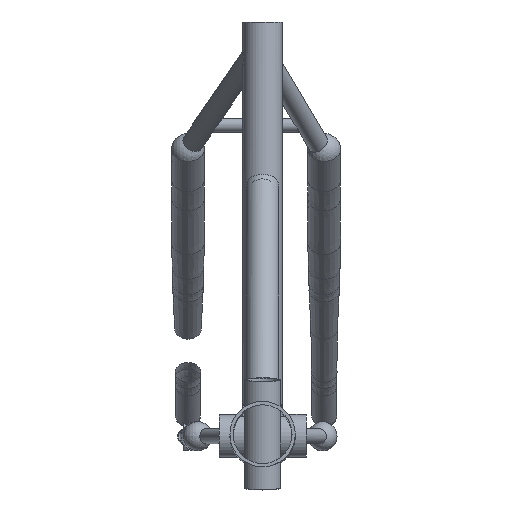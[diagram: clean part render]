
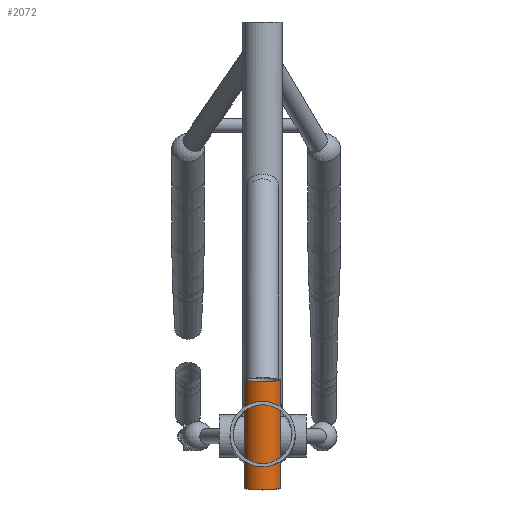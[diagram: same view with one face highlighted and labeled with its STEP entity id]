
A CAD part, top view. The second image highlights one B-rep face of the part: STEP entity #2072.
In plain terms, the highlighted cylindrical face has radius 16.85 mm (diameter 33.7 mm), a full revolution.
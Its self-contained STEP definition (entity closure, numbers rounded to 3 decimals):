
#295=FACE_OUTER_BOUND('',#418,.T.);
#418=EDGE_LOOP('',(#1824,#1825,#1826,#1827,#1828,#1829));
#531=LINE('',#5286,#638);
#638=VECTOR('',#2982,16.85);
#751=CIRCLE('',#2416,16.85);
#752=CIRCLE('',#2417,16.85);
#755=CIRCLE('',#2422,16.85);
#756=CIRCLE('',#2423,16.85);
#949=VERTEX_POINT('',#5271);
#950=VERTEX_POINT('',#5272);
#953=VERTEX_POINT('',#5282);
#954=VERTEX_POINT('',#5283);
#1241=EDGE_CURVE('',#949,#950,#751,.T.);
#1242=EDGE_CURVE('',#950,#949,#752,.T.);
#1246=EDGE_CURVE('',#953,#954,#755,.T.);
#1247=EDGE_CURVE('',#954,#953,#756,.T.);
#1248=EDGE_CURVE('',#954,#950,#531,.T.);
#1824=ORIENTED_EDGE('',*,*,#1246,.F.);
#1825=ORIENTED_EDGE('',*,*,#1247,.F.);
#1826=ORIENTED_EDGE('',*,*,#1248,.T.);
#1827=ORIENTED_EDGE('',*,*,#1241,.F.);
#1828=ORIENTED_EDGE('',*,*,#1242,.F.);
#1829=ORIENTED_EDGE('',*,*,#1248,.F.);
#1884=CYLINDRICAL_SURFACE('',#2421,16.85);
#2072=ADVANCED_FACE('',(#295),#1884,.T.);
#2416=AXIS2_PLACEMENT_3D('',#5273,#2965,#2966);
#2417=AXIS2_PLACEMENT_3D('',#5274,#2967,#2968);
#2421=AXIS2_PLACEMENT_3D('',#5281,#2976,#2977);
#2422=AXIS2_PLACEMENT_3D('',#5284,#2978,#2979);
#2423=AXIS2_PLACEMENT_3D('',#5285,#2980,#2981);
#2965=DIRECTION('center_axis',(0.,-1.,0.));
#2966=DIRECTION('ref_axis',(-1.,0.,0.));
#2967=DIRECTION('center_axis',(0.,-1.,0.));
#2968=DIRECTION('ref_axis',(-1.,0.,0.));
#2976=DIRECTION('center_axis',(0.,1.,0.));
#2977=DIRECTION('ref_axis',(-1.,0.,0.));
#2978=DIRECTION('center_axis',(0.,1.,0.));
#2979=DIRECTION('ref_axis',(-1.,0.,0.));
#2980=DIRECTION('center_axis',(0.,1.,0.));
#2981=DIRECTION('ref_axis',(-1.,0.,0.));
#2982=DIRECTION('',(0.,-1.,0.));
#5271=CARTESIAN_POINT('',(-16.85,-50.,0.));
#5272=CARTESIAN_POINT('',(16.85,-50.,0.));
#5273=CARTESIAN_POINT('Origin',(0.,-50.,0.));
#5274=CARTESIAN_POINT('Origin',(0.,-50.,0.));
#5281=CARTESIAN_POINT('Origin',(0.,0.,0.));
#5282=CARTESIAN_POINT('',(-16.85,50.,0.));
#5283=CARTESIAN_POINT('',(16.85,50.,0.));
#5284=CARTESIAN_POINT('Origin',(0.,50.,0.));
#5285=CARTESIAN_POINT('Origin',(0.,50.,0.));
#5286=CARTESIAN_POINT('',(16.85,0.,0.));
